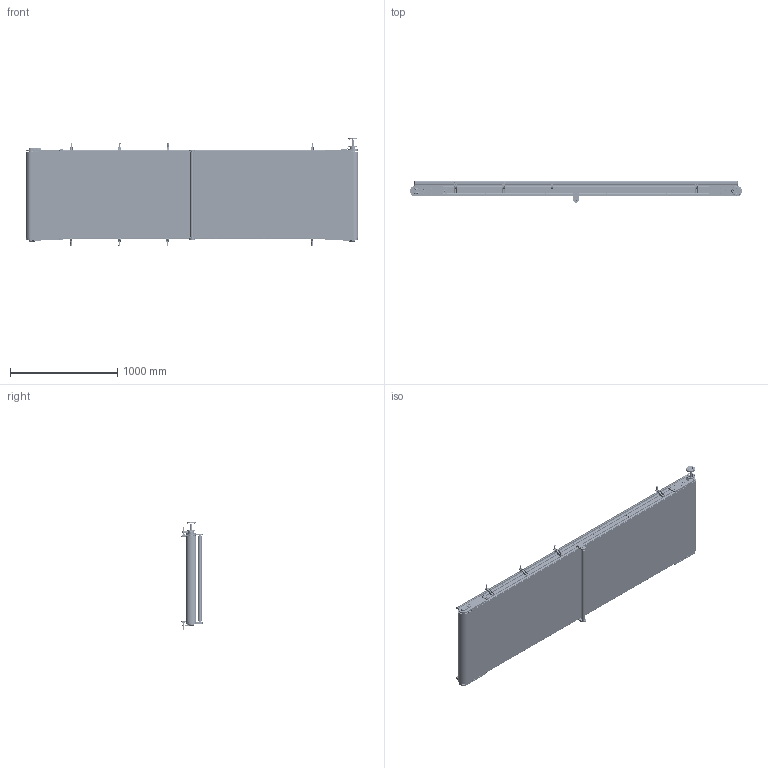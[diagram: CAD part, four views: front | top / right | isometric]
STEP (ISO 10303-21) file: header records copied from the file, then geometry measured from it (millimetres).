
FILE_DESCRIPTION (( 'STEP AP203' ), '1' );
FILE_NAME ('NASTRO_RETTILINEO_TAPPETO.step', '2026-04-23T09:56:54', ( 'Utente Windows' ), ( '' ), 'SwSTEP 2.0', 'SolidWorks 2024', '' );
FILE_SCHEMA (( 'CONFIG_CONTROL_DESIGN' ));
Length unit declared in the file: millimetre
Products named in the file (54): 084.302.060; 084.302.000 DADI ALUSIC 13x13-1_084.302.007; VITI TE UNI 5739_M6x16 UNI 5739; 084.711.006_PER CAVA 8 PERNO ALTO 1; 084.802.034_084.802.034; 084.301.000 VITI ALUSIC_084.301.003; 084.808.002_084.808.002; VITI TSEI UNI 5933_M4x12 UNI 5933; SPONDA_Default<A macchina>; RULLO_95_CINGHIE_Default<A macchina>; 084.711.006_L2; NASTRO_RETTILINEO_TAPPETO; 084.802.019_084.802.019; 084.808.012; BLOCCO_REGGITAPPETO; BLOCCO_TRAINO_95_STANDARD_44_DX_dx; VITI TSEI UNI 5933_M5x12 UNI 5933; 084.802.014; DADI ESAGONALI NORMALI UNI 5588_M6 UNI 5588; PERNO_95_TRAINO_CINGHIE_44_DX_Default<A macchina>; 084.802.062; 084.802.068; 084.303.001; VITE_RONDELLA_M8X20; BLOCCO_BRACCIO_CH04P_V2_VF44P V2; PERNO_95_RINVIO_CINGHIE; 084.802.013-2; TELAIO_95_CINGHIE_Default<A macchina>; RULLO_REGGITAPPETO; 084.711.007; BLOCCO_TRAINO_95_STANDARD_CON TENDINASTRO E CARTER; 084.711.010; 084.712.002; 084.802.067_Default<A macchina>; 084.808.003_084.808.003; 449.014.106; 084.803.003; 084.802.028; TAPPETO_STANDARD_CINGHIE; 084.802.060_Default<A macchina>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
Assembly tree (155 placements, depth 4):
  NASTRO_RETTILINEO_TAPPETO
    TAPPETO_STANDARD_CINGHIE
    TELAIO_95_CINGHIE_Default<A macchina>
    LAMIERA_STANDARD  x2
    RULLO_95_CINGHIE_Default<A macchina>  x2
    PERNO_95_TRAINO_CINGHIE_44_DX_Default<A macchina>
    BLOCCO_TRAINO_95_STANDARD_44_DX_dx
      084.808.003_084.808.003
      084.302.060  x2
      084.802.034_084.802.034
      084.301.000 VITI ALUSIC_084.301.003  x6
      VITI TCEI UNI 5931_M4x25 UNI 5931  x2
      084.802.067_Default<A macchina>
      BLOCCO_BRACCIO_CH04P_V2_VF44P V2
        084.808.012
        084.802.062
        084.803.018
        VITI TCEI UNI 5931_M6x12 UNI 5931  x4
        VITI TE UNI 5739_M6x16 UNI 5739  x4
        084.802.060_Default<A macchina>
    BLOCCO_TRAINO_95_STANDARD_CON TENDINASTRO E CARTER
      084.808.002_084.808.002
      084.302.060  x2
      084.802.019_084.802.019
      084.301.000 VITI ALUSIC_084.301.003  x6
      VITI TCEI UNI 5931_M4x25 UNI 5931  x2
      084.802.071
      084.802.068
      VITI TSEI UNI 5933_M4x12 UNI 5933  x2
    GUIDA_CINGHIA_Z_95  x4
      449.014.106
      DADO ESAGONALE M30 AUTOBLOCCANTE UNI 7473_M30 UNI 7473
    PERNO_95_RINVIO_CINGHIE
    BLOCCO_RINVIO_95_STANDARD_CON TENDINASTRO E CARTER  x2
      084.808.002_084.808.002
      084.803.003
      084.302.060
      084.802.019_084.802.019
      VITI TSEI UNI 5933_M4x12 UNI 5933
      084.302.000 DADI ALUSIC 13x13-1_084.302.004
      084.301.000 VITI ALUSIC_084.301.003
      084.802.071
    SPONDA_Default<A macchina>  x2
    084.711.006_PER CAVA 8 PERNO ALTO 1  x8
      084.711.006_L1
      084.711.006_L2
      084.711.007
      084.711.005
      084.711.010
      DADI ESAGONALI NORMALI UNI 5588_M6 UNI 5588
    084.712.002  x4
    VITE_RONDELLA_M8X20  x21
      084.303.001
      084.301.000 VITI ALUSIC_084.301.003
    VITE_DADO_M5X12  x16
      084.302.000 DADI ALUSIC 13x13-1_084.302.007
      VITI TSEI UNI 5933_M5x12 UNI 5933
    BLOCCO_REGGITAPPETO  x2
      084.301.000 VITI ALUSIC_084.301.003
      084.302.000 DADI ALUSIC 13x13-1_084.302.004
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Bounding box: 3099 x 196.5 x 1017.43 mm (x, y, z)
Volume: 38973013.5 mm3; surface area: 27395262.1 mm2
Topology: 280 solids, 286 shells, 11221 faces, 28278 edges, 17750 vertices
Faces by surface type: plane 5473, cylinder 3114, cone 959, bspline 796, torus 719, sphere 160
Entity records: 172447 total; most frequent: CARTESIAN_POINT 49531, ORIENTED_EDGE 24806, DIRECTION 22967, EDGE_CURVE 12403, VERTEX_POINT 7910, AXIS2_PLACEMENT_3D 7891, LINE 7185, VECTOR 7185
